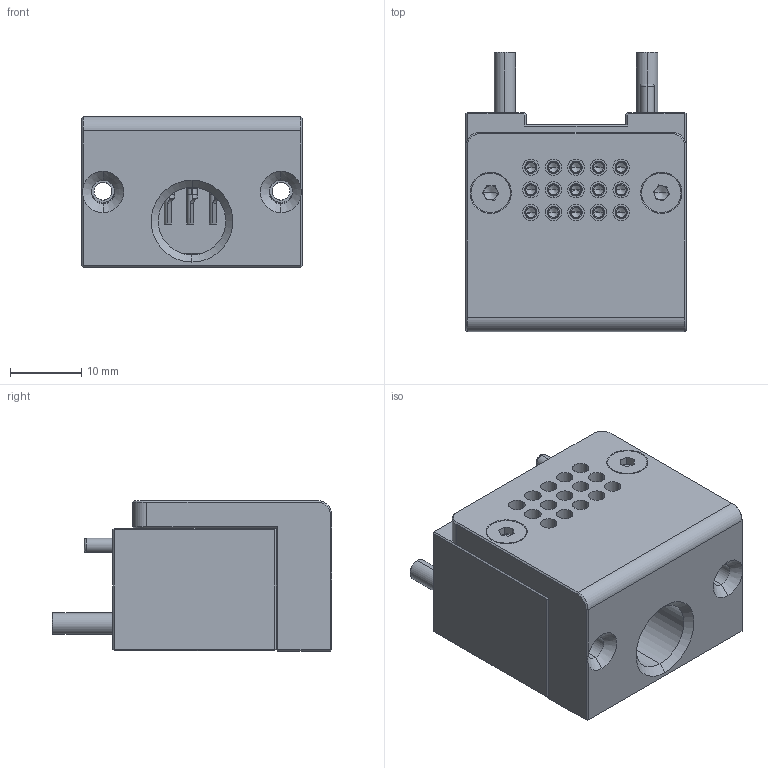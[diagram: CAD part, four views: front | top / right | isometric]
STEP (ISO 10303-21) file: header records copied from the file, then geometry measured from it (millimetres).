
FILE_DESCRIPTION (( 'STEP AP203' ), '1' );
FILE_NAME ('QCSM-15R.STEP', '2023-12-27T09:06:05', ( '微软用户' ), ( '微软中国' ), 'SwSTEP 2.0', 'SolidWorks 2018', '' );
FILE_SCHEMA (( 'CONFIG_CONTROL_DESIGN' ));
Length unit declared in the file: millimetre
Products named in the file (1): QCSM-15R
Bounding box: 31 x 39.3 x 21.2 mm (x, y, z)
Volume: 13855.7 mm3; surface area: 10601.5 mm2
Topology: 4 solids, 4 shells, 679 faces, 1688 edges, 1067 vertices
Faces by surface type: cylinder 294, plane 259, cone 82, torus 42, bspline 2
Entity records: 21905 total; most frequent: CARTESIAN_POINT 6202, ORIENTED_EDGE 3300, DIRECTION 3147, EDGE_CURVE 1650, AXIS2_PLACEMENT_3D 1285, VERTEX_POINT 1067, EDGE_LOOP 793, FACE_OUTER_BOUND 679
